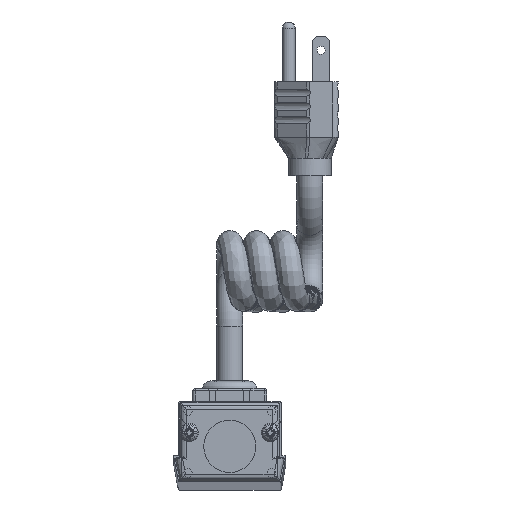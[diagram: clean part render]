
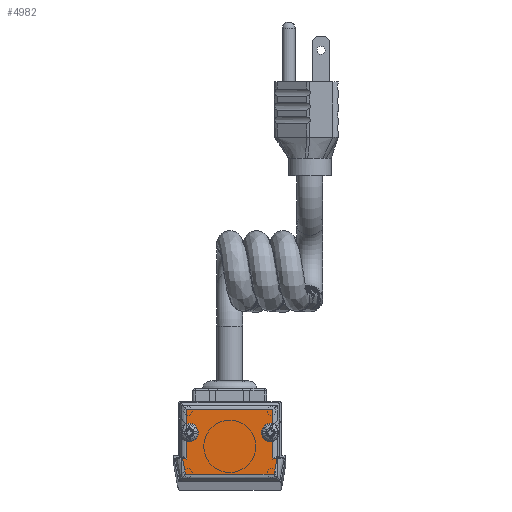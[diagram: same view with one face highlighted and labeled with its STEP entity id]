
A CAD part, top view. The second image highlights one B-rep face of the part: STEP entity #4982.
In plain terms, the highlighted planar face has unit normal (0, 0, 1).
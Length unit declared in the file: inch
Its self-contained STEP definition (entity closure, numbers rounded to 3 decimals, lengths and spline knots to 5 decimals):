
#4808=CARTESIAN_POINT('',(-15.7226,16.40547,2.54));
#4809=VERTEX_POINT('',#4808);
#4810=CARTESIAN_POINT('',(-15.7226,19.05293,2.54));
#4811=VERTEX_POINT('',#4810);
#4829=CARTESIAN_POINT('',(-14.8463,17.7292,2.54));
#4830=DIRECTION('',(0.0,0.0,-1.0));
#4831=DIRECTION('',(1.0,0.0,0.0));
#4832=AXIS2_PLACEMENT_3D('',#4829,#4830,#4831);
#4833=CIRCLE('',#4832,1.5875);
#4834=EDGE_CURVE('',#4811,#4809,#4833,.T.);
#4855=CARTESIAN_POINT('',(15.7226,19.05293,2.54));
#4856=VERTEX_POINT('',#4855);
#4857=CARTESIAN_POINT('',(15.7226,16.40547,2.54));
#4858=VERTEX_POINT('',#4857);
#4876=CARTESIAN_POINT('',(14.8463,17.7292,2.54));
#4877=DIRECTION('',(0.0,0.0,-1.0));
#4878=DIRECTION('',(1.0,0.0,0.0));
#4879=AXIS2_PLACEMENT_3D('',#4876,#4877,#4878);
#4880=CIRCLE('',#4879,1.5875);
#4881=EDGE_CURVE('',#4858,#4856,#4880,.T.);
#4897=CARTESIAN_POINT('',(0.,14.10876,2.54));
#4898=DIRECTION('',(0.0,0.0,1.0));
#4899=DIRECTION('',(1.0,0.0,0.0));
#4900=AXIS2_PLACEMENT_3D('',#4897,#4898,#4899);
#4901=PLANE('',#4900);
#4902=ORIENTED_EDGE('',*,*,#4834,.T.);
#4903=CARTESIAN_POINT('',(-15.7226,8.06566,2.54));
#4904=VERTEX_POINT('',#4903);
#4905=CARTESIAN_POINT('',(-15.7226,8.06566,2.54));
#4906=DIRECTION('',(0.0,1.0,0.0));
#4907=VECTOR('',#4906,8.33981);
#4908=LINE('',#4905,#4907);
#4909=EDGE_CURVE('',#4904,#4809,#4908,.T.);
#4910=ORIENTED_EDGE('',*,*,#4909,.F.);
#4911=CARTESIAN_POINT('',(-17.26917,8.20097,2.54));
#4912=VERTEX_POINT('',#4911);
#4913=CARTESIAN_POINT('',(-17.26917,8.20097,2.54));
#4914=DIRECTION('',(0.996,-0.087,0.0));
#4915=VECTOR('',#4914,1.55247);
#4916=LINE('',#4913,#4915);
#4917=EDGE_CURVE('',#4912,#4904,#4916,.T.);
#4918=ORIENTED_EDGE('',*,*,#4917,.F.);
#4919=CARTESIAN_POINT('',(-16.16879,2.54,2.54));
#4920=VERTEX_POINT('',#4919);
#4921=CARTESIAN_POINT('',(-16.16879,2.54,2.54));
#4922=DIRECTION('',(-0.191,0.982,0.0));
#4923=VECTOR('',#4922,5.76692);
#4924=LINE('',#4921,#4923);
#4925=EDGE_CURVE('',#4920,#4912,#4924,.T.);
#4926=ORIENTED_EDGE('',*,*,#4925,.F.);
#4927=CARTESIAN_POINT('',(16.16879,2.54,2.54));
#4928=VERTEX_POINT('',#4927);
#4929=CARTESIAN_POINT('',(16.16879,2.54,2.54));
#4930=DIRECTION('',(-1.0,0.0,0.0));
#4931=VECTOR('',#4930,32.33757);
#4932=LINE('',#4929,#4931);
#4933=EDGE_CURVE('',#4928,#4920,#4932,.T.);
#4934=ORIENTED_EDGE('',*,*,#4933,.F.);
#4935=CARTESIAN_POINT('',(17.26917,8.20097,2.54));
#4936=VERTEX_POINT('',#4935);
#4937=CARTESIAN_POINT('',(17.26917,8.20097,2.54));
#4938=DIRECTION('',(-0.191,-0.982,0.0));
#4939=VECTOR('',#4938,5.76692);
#4940=LINE('',#4937,#4939);
#4941=EDGE_CURVE('',#4936,#4928,#4940,.T.);
#4942=ORIENTED_EDGE('',*,*,#4941,.F.);
#4943=CARTESIAN_POINT('',(15.7226,8.06566,2.54));
#4944=VERTEX_POINT('',#4943);
#4945=CARTESIAN_POINT('',(15.7226,8.06566,2.54));
#4946=DIRECTION('',(0.996,0.087,0.0));
#4947=VECTOR('',#4946,1.55247);
#4948=LINE('',#4945,#4947);
#4949=EDGE_CURVE('',#4944,#4936,#4948,.T.);
#4950=ORIENTED_EDGE('',*,*,#4949,.F.);
#4951=CARTESIAN_POINT('',(15.7226,16.40547,2.54));
#4952=DIRECTION('',(0.0,-1.0,0.0));
#4953=VECTOR('',#4952,8.33981);
#4954=LINE('',#4951,#4953);
#4955=EDGE_CURVE('',#4858,#4944,#4954,.T.);
#4956=ORIENTED_EDGE('',*,*,#4955,.F.);
#4957=ORIENTED_EDGE('',*,*,#4881,.T.);
#4958=CARTESIAN_POINT('',(15.7226,26.035,2.54));
#4959=VERTEX_POINT('',#4958);
#4960=CARTESIAN_POINT('',(15.7226,26.035,2.54));
#4961=DIRECTION('',(0.0,-1.0,0.0));
#4962=VECTOR('',#4961,6.98207);
#4963=LINE('',#4960,#4962);
#4964=EDGE_CURVE('',#4959,#4856,#4963,.T.);
#4965=ORIENTED_EDGE('',*,*,#4964,.F.);
#4966=CARTESIAN_POINT('',(-15.7226,26.035,2.54));
#4967=VERTEX_POINT('',#4966);
#4968=CARTESIAN_POINT('',(-15.7226,26.035,2.54));
#4969=DIRECTION('',(1.0,0.0,0.0));
#4970=VECTOR('',#4969,31.4452);
#4971=LINE('',#4968,#4970);
#4972=EDGE_CURVE('',#4967,#4959,#4971,.T.);
#4973=ORIENTED_EDGE('',*,*,#4972,.F.);
#4974=CARTESIAN_POINT('',(-15.7226,19.05293,2.54));
#4975=DIRECTION('',(0.0,1.0,0.0));
#4976=VECTOR('',#4975,6.98207);
#4977=LINE('',#4974,#4976);
#4978=EDGE_CURVE('',#4811,#4967,#4977,.T.);
#4979=ORIENTED_EDGE('',*,*,#4978,.F.);
#4980=EDGE_LOOP('',(#4902,#4910,#4918,#4926,#4934,#4942,#4950,#4956,#4957,#4965,#4973,#4979));
#4981=FACE_OUTER_BOUND('',#4980,.T.);
#4982=ADVANCED_FACE('',(#4981),#4901,.T.);
